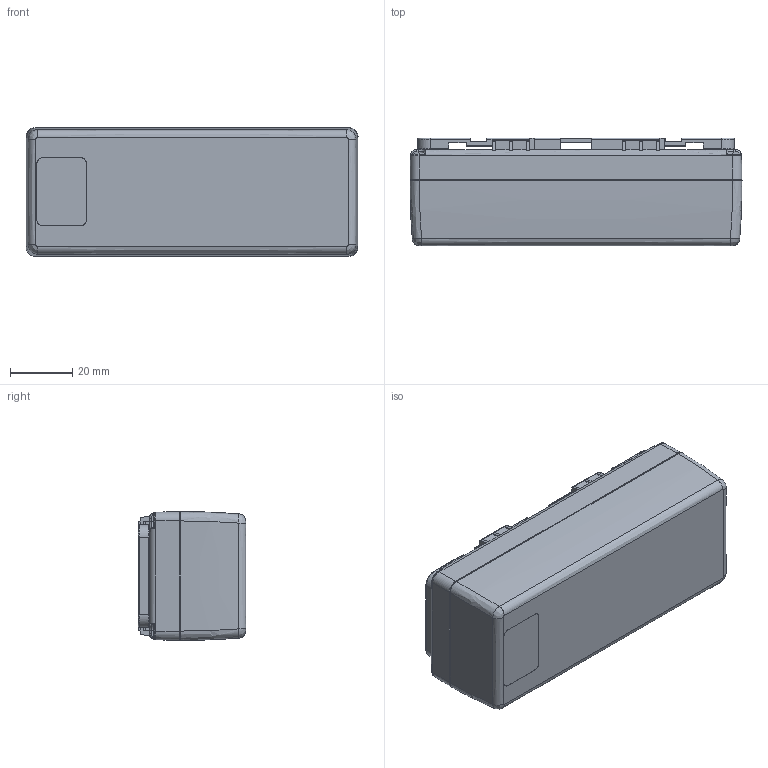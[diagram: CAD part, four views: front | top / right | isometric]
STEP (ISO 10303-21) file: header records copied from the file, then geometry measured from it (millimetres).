
FILE_DESCRIPTION(/* description */ (''),/* implementation_level */ '2;1');
FILE_NAME(/* name */ '[DRB-0007] Battery Case',/* time_stamp */ '2012-01-13T13:38:26+09:00',/* author */ (''),/* organization */ (''),/* preprocessor_version */ 'ST-DEVELOPER v10',/* originating_system */ '',/* authorisation */ '');
FILE_SCHEMA (('AUTOMOTIVE_DESIGN_CC2'));
Length unit declared in the file: millimetre
Products named in the file (1): 1
Bounding box: 107 x 34.7 x 41.5 mm (x, y, z)
Volume: 29971.4 mm3; surface area: 44584.2 mm2
Topology: 3 solids, 4 shells, 747 faces, 2091 edges, 1351 vertices
Faces by surface type: plane 385, bspline 362
Entity records: 24094 total; most frequent: CARTESIAN_POINT 11286, ORIENTED_EDGE 4181, EDGE_CURVE 2091, B_SPLINE_CURVE_WITH_KNOTS 1448, VERTEX_POINT 1351, EDGE_LOOP 865, ADVANCED_FACE 747, FACE_OUTER_BOUND 747
